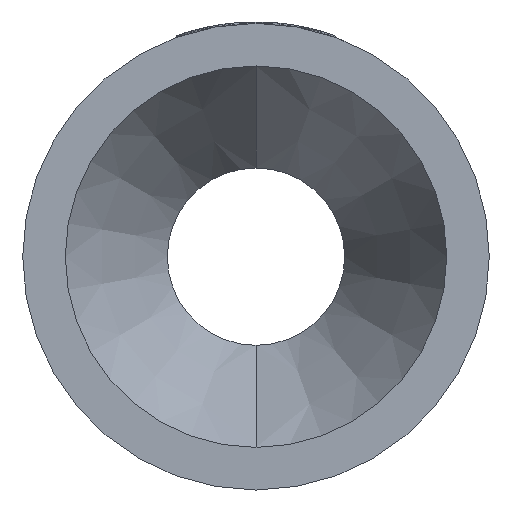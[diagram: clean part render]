
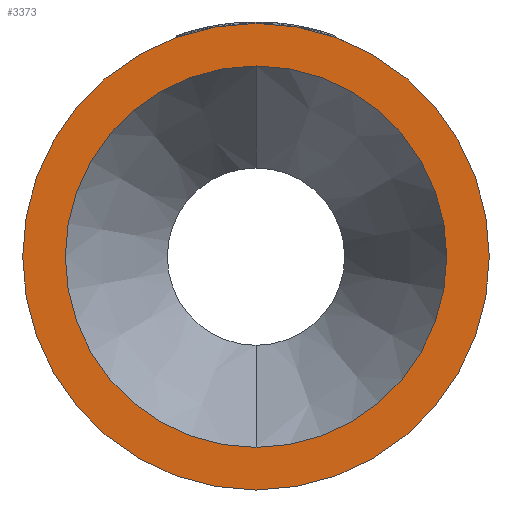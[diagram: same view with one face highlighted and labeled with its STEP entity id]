
A CAD part, left-side view. The second image highlights one B-rep face of the part: STEP entity #3373.
In plain terms, the highlighted planar face has unit normal (-1, 0, 0).
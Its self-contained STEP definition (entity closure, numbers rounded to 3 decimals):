
#55 = DIRECTION ( 'NONE',  ( 0., 0., 1. ) ) ;
#83 = DIRECTION ( 'NONE',  ( -1., 0., 0. ) ) ;
#86 = CARTESIAN_POINT ( 'NONE',  ( 0., 0., 0. ) ) ;
#132 = ORIENTED_EDGE ( 'NONE', *, *, #3403, .T. ) ;
#149 = CARTESIAN_POINT ( 'NONE',  ( 0., 0., 65.4 ) ) ;
#167 = CIRCLE ( 'NONE', #2130, 80. ) ;
#212 = CIRCLE ( 'NONE', #2148, 65.4 ) ;
#250 = CARTESIAN_POINT ( 'NONE',  ( 0., 0., -80. ) ) ;
#256 = DIRECTION ( 'NONE',  ( 0., 0., 1. ) ) ;
#277 = ORIENTED_EDGE ( 'NONE', *, *, #3159, .F. ) ;
#288 = ORIENTED_EDGE ( 'NONE', *, *, #509, .F. ) ;
#509 = EDGE_CURVE ( 'NONE', #2217, #2806, #212, .T. ) ;
#516 = EDGE_CURVE ( 'NONE', #1797, #1657, #167, .T. ) ;
#572 = CARTESIAN_POINT ( 'NONE',  ( 0., 0., 80. ) ) ;
#740 = PLANE ( 'NONE',  #1604 ) ;
#888 = DIRECTION ( 'NONE',  ( -1., 0., 0. ) ) ;
#894 = CARTESIAN_POINT ( 'NONE',  ( 0., 0., 0. ) ) ;
#909 = DIRECTION ( 'NONE',  ( 0., 0., 1. ) ) ;
#918 = DIRECTION ( 'NONE',  ( -1., 0., 0. ) ) ;
#929 = CARTESIAN_POINT ( 'NONE',  ( 0., 0., 0. ) ) ;
#1294 = AXIS2_PLACEMENT_3D ( 'NONE', #86, #83, #55 ) ;
#1604 = AXIS2_PLACEMENT_3D ( 'NONE', #2810, #2767, #2764 ) ;
#1625 = AXIS2_PLACEMENT_3D ( 'NONE', #2042, #2018, #2006 ) ;
#1657 = VERTEX_POINT ( 'NONE', #572 ) ;
#1691 = CIRCLE ( 'NONE', #1625, 80. ) ;
#1773 = CIRCLE ( 'NONE', #1294, 65.4 ) ;
#1797 = VERTEX_POINT ( 'NONE', #250 ) ;
#2006 = DIRECTION ( 'NONE',  ( 0., 0., 1. ) ) ;
#2018 = DIRECTION ( 'NONE',  ( -1., 0., 0. ) ) ;
#2042 = CARTESIAN_POINT ( 'NONE',  ( 0., 0., 0. ) ) ;
#2122 = CARTESIAN_POINT ( 'NONE',  ( 0., 0., -65.4 ) ) ;
#2130 = AXIS2_PLACEMENT_3D ( 'NONE', #894, #888, #256 ) ;
#2148 = AXIS2_PLACEMENT_3D ( 'NONE', #929, #918, #909 ) ;
#2217 = VERTEX_POINT ( 'NONE', #149 ) ;
#2488 = EDGE_LOOP ( 'NONE', ( #132, #2645 ) ) ;
#2552 = FACE_BOUND ( 'NONE', #2636, .T. ) ;
#2636 = EDGE_LOOP ( 'NONE', ( #288, #277 ) ) ;
#2645 = ORIENTED_EDGE ( 'NONE', *, *, #516, .T. ) ;
#2764 = DIRECTION ( 'NONE',  ( 0., 0., -1. ) ) ;
#2767 = DIRECTION ( 'NONE',  ( 1., 0., 0. ) ) ;
#2806 = VERTEX_POINT ( 'NONE', #2122 ) ;
#2810 = CARTESIAN_POINT ( 'NONE',  ( 0., 65.4, 0. ) ) ;
#3159 = EDGE_CURVE ( 'NONE', #2806, #2217, #1773, .T. ) ;
#3367 = FACE_OUTER_BOUND ( 'NONE', #2488, .T. ) ;
#3373 = ADVANCED_FACE ( 'NONE', ( #2552, #3367 ), #740, .F. ) ;
#3403 = EDGE_CURVE ( 'NONE', #1657, #1797, #1691, .T. ) ;
